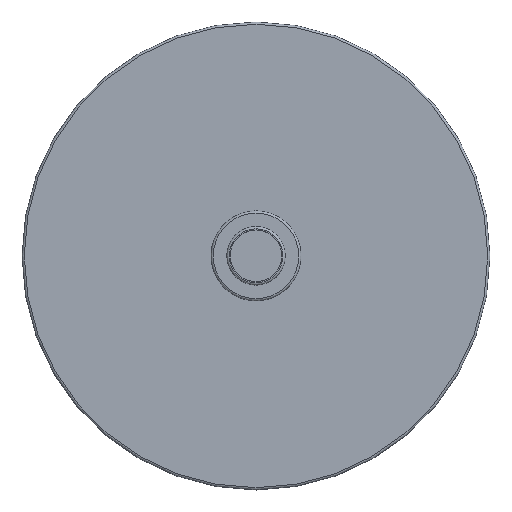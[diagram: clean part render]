
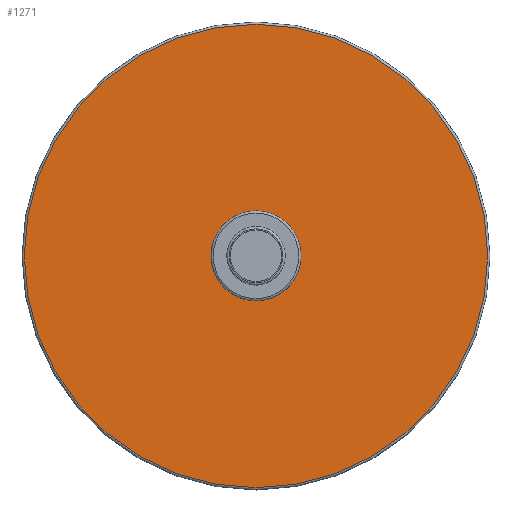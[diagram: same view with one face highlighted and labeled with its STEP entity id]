
A CAD part, top view. The second image highlights one B-rep face of the part: STEP entity #1271.
In plain terms, the highlighted planar face has unit normal (0, 0, 1).
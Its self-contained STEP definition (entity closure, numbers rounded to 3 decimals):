
#1271=ADVANCED_FACE('',(#5733,#5735),#5737,.T.);
#5733=FACE_BOUND('',#5734,.T.);
#5734=EDGE_LOOP('',(#10180));
#5735=FACE_BOUND('',#5736,.T.);
#5736=EDGE_LOOP('',(#10181));
#5737=PLANE('',#5738);
#5738=AXIS2_PLACEMENT_3D('',#5739,#5740,#5741);
#5739=CARTESIAN_POINT('',(0.,0.,15.));
#5740=DIRECTION('',(0.,0.,1.));
#5741=DIRECTION('',(0.,1.,0.));
#10180=ORIENTED_EDGE('',*,*,#11170,.F.);
#10181=ORIENTED_EDGE('',*,*,#11171,.T.);
#11170=EDGE_CURVE('',#11668,#11668,#11669,.T.);
#11171=EDGE_CURVE('',#11670,#11670,#11671,.T.);
#11668=VERTEX_POINT('',#12667);
#11669=CIRCLE('',#12668,103.);
#11670=VERTEX_POINT('',#12672);
#11671=CIRCLE('',#12673,20.);
#12667=CARTESIAN_POINT('',(0.,103.,15.));
#12668=AXIS2_PLACEMENT_3D('',#12669,#12670,#12671);
#12669=CARTESIAN_POINT('',(0.,0.,15.));
#12670=DIRECTION('',(0.,0.,-1.));
#12671=DIRECTION('',(0.,1.,0.));
#12672=CARTESIAN_POINT('',(0.,20.,15.));
#12673=AXIS2_PLACEMENT_3D('',#12674,#12675,#12676);
#12674=CARTESIAN_POINT('',(0.,0.,15.));
#12675=DIRECTION('',(0.,0.,-1.));
#12676=DIRECTION('',(0.,1.,0.));
